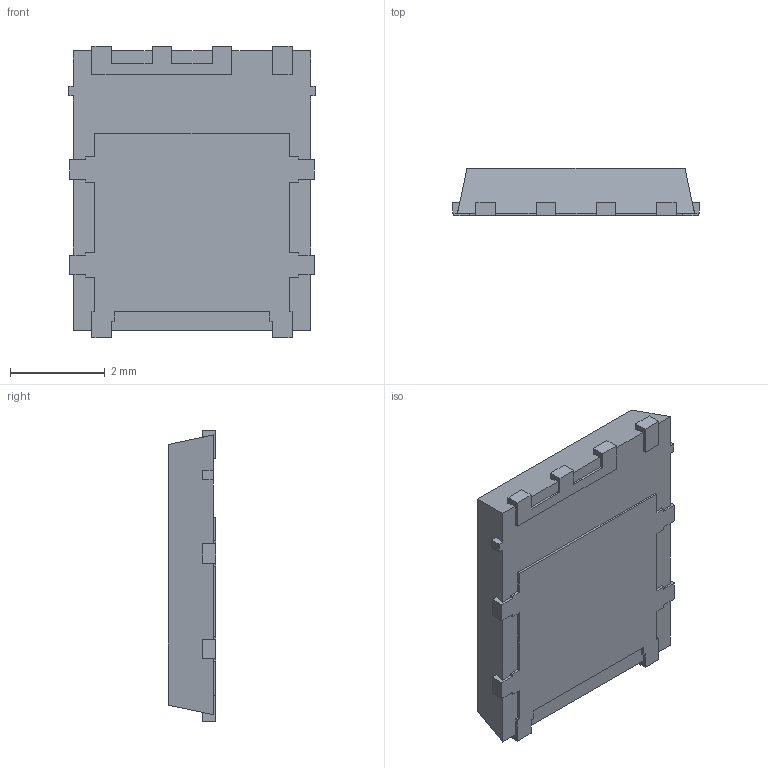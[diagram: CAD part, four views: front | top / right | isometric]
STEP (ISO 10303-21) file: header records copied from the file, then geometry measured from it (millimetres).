
FILE_DESCRIPTION (( 'STEP AP214' ), '1' );
FILE_NAME ('onsemi NVMFWS0D45N04XMT1G.STEP', '2025-09-02T11:50:45', ( '' ), ( '' ), 'SwSTEP 2.0', 'SolidWorks 2023', '' );
FILE_SCHEMA (( 'AUTOMOTIVE_DESIGN' ));
Length unit declared in the file: millimetre
Products named in the file (1): onsemi NVMFWS0D45N04XMT1G
Bounding box: 5.2 x 1 x 6.15 mm (x, y, z)
Volume: 27 mm3; surface area: 125.9 mm2
Topology: 4 solids, 4 shells, 151 faces, 426 edges, 284 vertices
Faces by surface type: plane 149, cylinder 2
Entity records: 6495 total; most frequent: CARTESIAN_POINT 862, ORIENTED_EDGE 852, DIRECTION 734, EDGE_CURVE 426, LINE 422, VECTOR 422, VERTEX_POINT 284, UNCERTAINTY_MEASURE_WITH_UNIT 156
